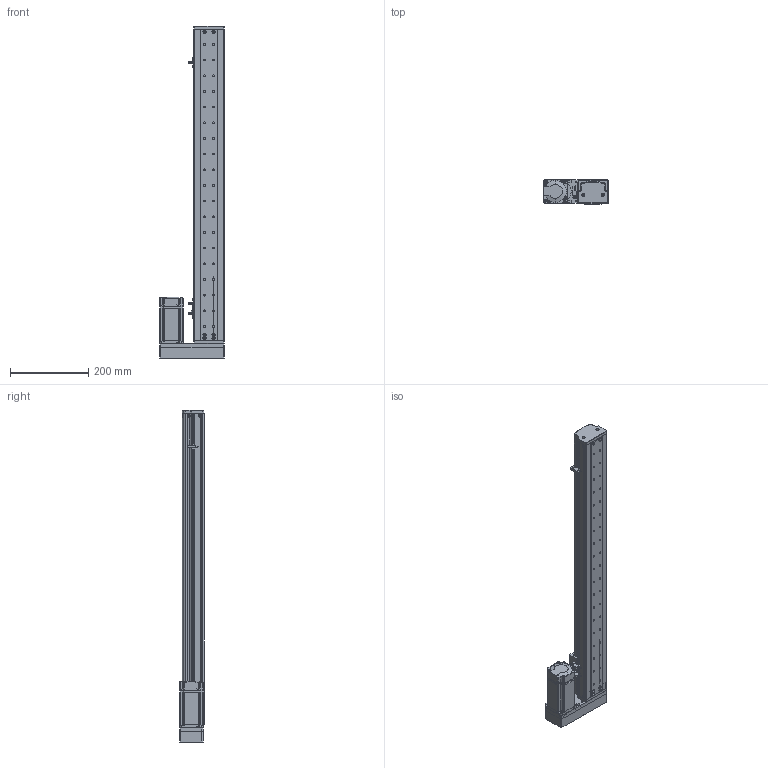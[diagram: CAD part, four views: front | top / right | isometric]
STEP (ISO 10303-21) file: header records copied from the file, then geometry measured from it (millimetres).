
FILE_DESCRIPTION (( 'STEP AP214' ), '1' );
FILE_NAME ('KSD75S-S640-MR-CM.STEP', '2019-10-18T07:24:09', ( '微软用户' ), ( '微软中国' ), 'SwSTEP 2.0', 'SolidWorks 2014', '' );
FILE_SCHEMA (( 'AUTOMOTIVE_DESIGN' ));
Length unit declared in the file: millimetre
Products named in the file (13): 綴傷啣 ; ヶ傷啣; 75裔啣-640俴最; 75遵耀郪耜啣-640俴最; 75遵賑雄釱; MGW15H賑寢640俴最 ; 640俴最; KSD75S-S640-MR-CM; MHMD042G1CA_2_03; 75宽模组保护罩左右折; 75宽马达安装板连板左右折丝杆; 覜茼え100遵圉猾敕; U倰嫖萇EEㄜSX672
Assembly tree (15 placements, depth 3):
  KSD75S-S640-MR-CM
    MGW15H賑寢640俴最 
      640俴最
    75遵賑雄釱
    75遵耀郪耜啣-640俴最  x2
    75裔啣-640俴最
    ヶ傷啣
    綴傷啣 
    U倰嫖萇EEㄜSX672  x3
    覜茼え100遵圉猾敕
    75宽马达安装板连板左右折丝杆
    75宽模组保护罩左右折
    MHMD042G1CA_2_03
Bounding box: 165 x 63 x 847.5 mm (x, y, z)
Volume: 1058469.3 mm3; surface area: 667212.3 mm2
Topology: 13 solids, 14 shells, 1523 faces, 4282 edges, 2797 vertices
Faces by surface type: cylinder 739, plane 637, cone 129, bspline 18
Entity records: 48766 total; most frequent: CARTESIAN_POINT 9218, DIRECTION 7364, ORIENTED_EDGE 6844, EDGE_CURVE 3493, AXIS2_PLACEMENT_3D 2722, VERTEX_POINT 2315, VECTOR 1920, LINE 1920
